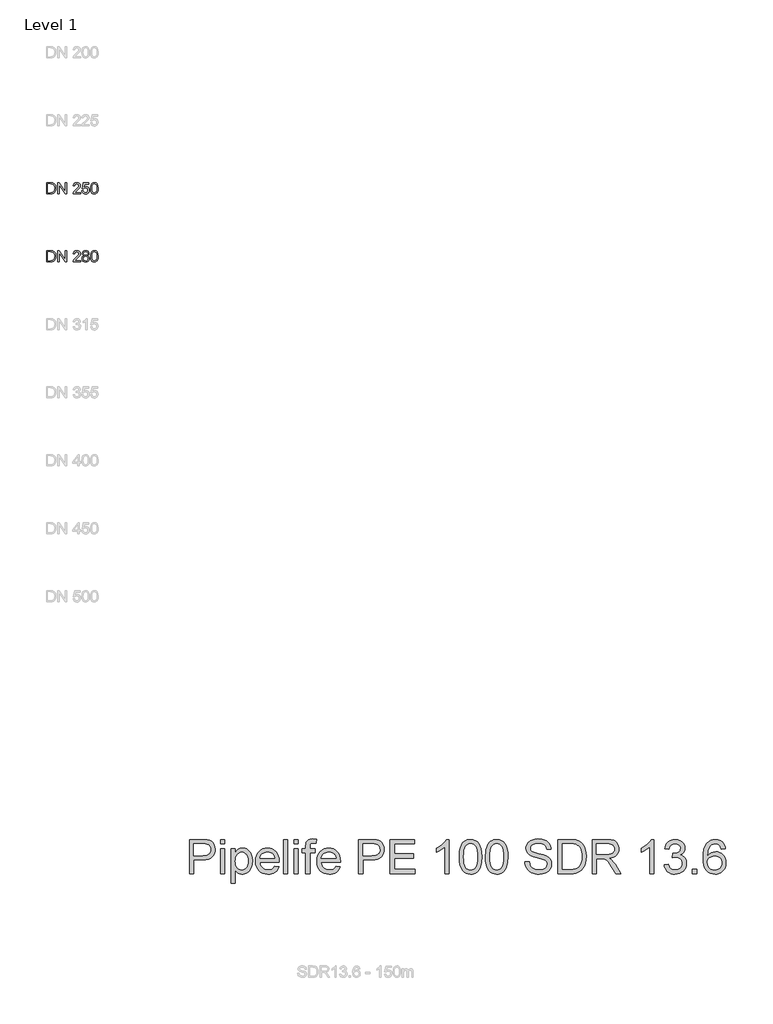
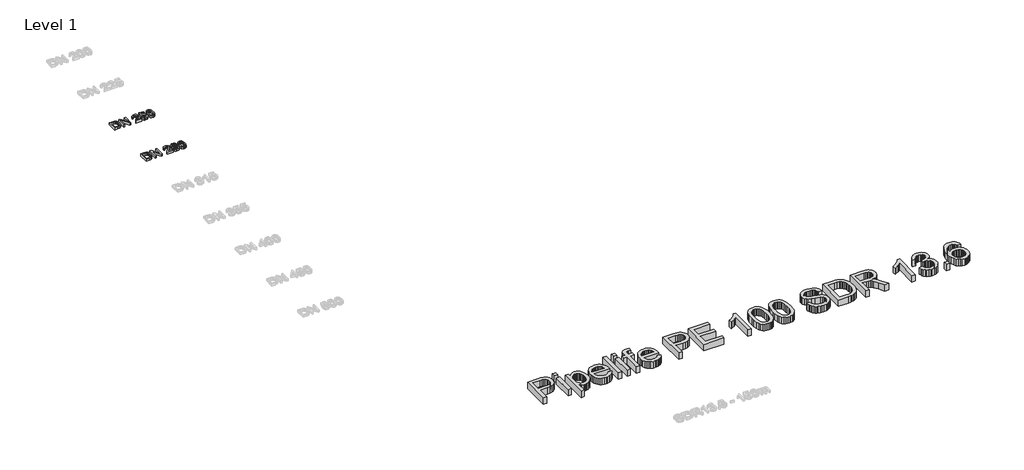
# One storey, part 17 of 26: 3 proxies.
"""IFC4 building model written with IfcOpenShell, lengths in millimetres."""

import ifcopenshell
import ifcopenshell.guid

model = None  # the IFC model being written
_history = None  # IfcOwnerHistory: only IFC2X3 demands one
_inside = {}  # id of a spatial element -> (the spatial element, [elements in it])
_under = {}  # id of a project, library or spatial element -> (it, [spatial elements below it])
_declared = {}  # id of a project -> (the project, [libraries it declares])
_typed = {}  # id of a type object -> (the type object, [elements of that type])
_made_of = {}  # id of a material, layer set ... -> (it, [elements and type objects made of it])


def new_model(schema):
    """Start an empty IFC model of exactly this schema.

    Asked for "IFC4X3", IfcOpenShell would pick the latest addendum, in which some entities
    have other attributes; the version numbers below select the first issue.
    IFC2X3 requires an IfcOwnerHistory on every rooted entity: one is made here for all.
    """
    global model, _history
    if schema == "IFC4X3":
        model = ifcopenshell.file(schema_version=(4, 3, 0, 0))
    else:
        model = ifcopenshell.file(schema=schema)
    _inside.clear()
    _under.clear()
    _declared.clear()
    _typed.clear()
    _made_of.clear()
    _history = None
    if model.schema == "IFC2X3":
        org = make("IfcOrganization", Name="unknown")
        user = make(
            "IfcPersonAndOrganization",
            ThePerson=make("IfcPerson", FamilyName="unknown"),
            TheOrganization=org,
        )
        app = make(
            "IfcApplication",
            ApplicationDeveloper=org,
            Version="unknown",
            ApplicationFullName="unknown",
            ApplicationIdentifier="unknown",
        )
        _history = make(
            "IfcOwnerHistory",
            OwningUser=user,
            OwningApplication=app,
            ChangeAction="ADDED",
            CreationDate=0,
        )
    return model


def make(cls, **values):
    """One entity of the class cls with the attributes given. An attribute that is None is left unset."""
    return model.create_entity(
        cls, **{name: value for name, value in values.items() if value is not None}
    )


def rooted(cls, **values):
    """An entity with a GlobalId (a new one), such as an element, a storey or a relation."""
    return make(cls, GlobalId=ifcopenshell.guid.new(), OwnerHistory=_history, **values)


def si_unit(unit_type, name, prefix=None):
    """IfcSIUnit, for example si_unit("LENGTHUNIT", "METRE", prefix="MILLI")."""
    return make("IfcSIUnit", UnitType=unit_type, Prefix=prefix, Name=name)


def assignment(units):
    """IfcUnitAssignment: the units of a project."""
    return None if units is None else make("IfcUnitAssignment", Units=units)


def point(xyz):
    """IfcCartesianPoint."""
    return None if xyz is None else make("IfcCartesianPoint", Coordinates=xyz)


def direction(xyz):
    """IfcDirection."""
    return None if xyz is None else make("IfcDirection", DirectionRatios=xyz)


def frame(location, z_axis=None, x_axis=None):
    """IfcAxis2Placement3D, a coordinate frame: its origin and axes. An axis left out is left unset."""
    return make(
        "IfcAxis2Placement3D",
        Location=point(location),
        Axis=direction(z_axis),
        RefDirection=direction(x_axis),
    )


def origin():
    """The frame at (0, 0, 0) with its axes left unset."""
    return frame((0.0, 0.0, 0.0))


def origin_with_axes():
    """The frame at (0, 0, 0) with the z axis (0, 0, 1) and the x axis (1, 0, 0) written out."""
    return frame((0.0, 0.0, 0.0), z_axis=(0.0, 0.0, 1.0), x_axis=(1.0, 0.0, 0.0))


def place(relative_to, where):
    """IfcLocalPlacement: puts the frame where relative to a parent placement (None: the world)."""
    return make(
        "IfcLocalPlacement", PlacementRelTo=relative_to, RelativePlacement=where
    )


def context(
    kind, dimensions, precision=None, world=None, true_north=None, identifier=None
):
    """IfcGeometricRepresentationContext, for example the 3D "Model" context."""
    return make(
        "IfcGeometricRepresentationContext",
        ContextIdentifier=identifier,
        ContextType=kind,
        CoordinateSpaceDimension=dimensions,
        Precision=precision,
        WorldCoordinateSystem=world,
        TrueNorth=true_north,
    )


def project(units=None, contexts=None):
    """IfcProject with its units and contexts."""
    return rooted(
        "IfcProject",
        Name="project",
        RepresentationContexts=contexts,
        UnitsInContext=assignment(units),
    )


def spatial(cls, under=None, at=None, **own):
    """A site, building, storey or space (cls), placed at a placement, below another one or the project."""
    s = rooted(cls, ObjectPlacement=at, **own)
    if under is not None:
        _under.setdefault(under.id(), (under, []))[1].append(s)
    return s


def polyline(points):
    """IfcPolyline through the points."""
    return make("IfcPolyline", Points=[point(p) for p in points])


def outline(outer, holes=None, kind="AREA"):
    """IfcArbitraryClosedProfileDef: a profile drawn as a closed curve; with holes, ...WithVoids."""
    if holes is None:
        return make("IfcArbitraryClosedProfileDef", ProfileType=kind, OuterCurve=outer)
    return make(
        "IfcArbitraryProfileDefWithVoids",
        ProfileType=kind,
        OuterCurve=outer,
        InnerCurves=holes,
    )


def extrude(swept, where, along, depth):
    """IfcExtrudedAreaSolid: the profile swept, set in the frame where, extruded along a direction by depth."""
    return make(
        "IfcExtrudedAreaSolid",
        SweptArea=swept,
        Position=where,
        ExtrudedDirection=direction(along),
        Depth=depth,
    )


def shape(context_of_items, identifier, shape_type, items):
    """IfcShapeRepresentation: the items that make up one representation, for example the "Body"."""
    return make(
        "IfcShapeRepresentation",
        ContextOfItems=context_of_items,
        RepresentationIdentifier=identifier,
        RepresentationType=shape_type,
        Items=items,
    )


def made_of(thing, what):
    """Note that an element or type object is made of a material, layer set ...; save() writes the relation."""
    if what is not None:
        _made_of.setdefault(what.id(), (what, []))[1].append(thing)
    return thing


def element(
    cls,
    number,
    at=None,
    inside=None,
    cuts=None,
    type_object=None,
    material=None,
    context=None,
    identifier="Body",
    shape_type=None,
    held_by="IfcProductDefinitionShape",
    body=None,
    shapes=None,
    **own,
):
    """One element of the class cls, such as IfcWall. Its Tag is "e" and its number.

    at: its placement. inside: the storey or other place that contains it. cuts: it is an
    opening in that element (IfcRelVoidsElement). A single representation is given by context,
    identifier, shape_type and body (its items); several are given by shapes. held_by: the class
    of the entity that holds the representations. save() writes the other relations.
    """
    e = rooted(cls, Tag="e%d" % number, ObjectPlacement=at, **own)
    if body is not None:
        shapes = [shape(context, identifier, shape_type, body)]
    if shapes is not None:
        e.Representation = make(held_by, Representations=shapes)
    if inside is not None:
        _inside.setdefault(inside.id(), (inside, []))[1].append(e)
    if cuts is not None:
        rooted(
            "IfcRelVoidsElement", RelatingBuildingElement=cuts, RelatedOpeningElement=e
        )
    if type_object is not None:
        _typed.setdefault(type_object.id(), (type_object, []))[1].append(e)
    return made_of(e, material)


def aggregate(whole, parts):
    """IfcRelAggregates: a whole, such as a stair, and the parts it consists of."""
    return rooted("IfcRelAggregates", RelatingObject=whole, RelatedObjects=parts)


def save(model, path):
    """Write the relations noted so far, then the file.

    IfcRelAggregates (storeys below a building ...), IfcRelContainedInSpatialStructure (elements
    in a storey), IfcRelDefinesByType, IfcRelAssociatesMaterial and IfcRelDeclares: one each for
    every whole, place, type object, material and project.
    """
    for whole, parts in _under.values():
        aggregate(whole, parts)
    for where, things in _inside.values():
        rooted(
            "IfcRelContainedInSpatialStructure",
            RelatedElements=things,
            RelatingStructure=where,
        )
    for kind, things in _typed.values():
        rooted("IfcRelDefinesByType", RelatedObjects=things, RelatingType=kind)
    for what, things in _made_of.values():
        rooted("IfcRelAssociatesMaterial", RelatedObjects=things, RelatingMaterial=what)
    for by, libraries in _declared.values():
        rooted("IfcRelDeclares", RelatingContext=by, RelatedDefinitions=libraries)
    model.write(path)


model = new_model("IFC4")

# Units and contexts
model_context = context("Model", 3, world=origin())
ifc_project = project(units=[si_unit("LENGTHUNIT", "METRE", prefix="MILLI")], contexts=[model_context])

# Site, building, storey
site = spatial("IfcSite", under=ifc_project)
building = spatial("IfcBuilding", under=site)
storey = spatial("IfcBuildingStorey", under=building, Name="Level 1", Elevation=0.0)

# Proxies
placement = place(None, origin())
element("IfcBuildingElementProxy", 1, Name="200mm Arial", ObjectType="200mm Arial", at=placement, inside=storey, context=model_context, shape_type="SweptSolid", body=[
    extrude(outline(polyline([(-19491.3116028, -13913.949573), (-19491.3116028, -13713.0369527), (-19422.0026349, -13713.0369527), (-19386.1464031, -13715.9309577), (-19370.1312736, -13721.5105013), (-19356.6177416, -13730.302881), (-19342.724065, -13745.606772), (-19332.8280393, -13764.6385338), (-19326.9051392, -13787.0302846), (-19324.9308391, -13812.4141423), (-19330.2773908, -13852.9547382), (-19344.0116519, -13882.2136195), (-19362.3567008, -13900.436041), (-19386.3671323, -13910.5160077), (-19418.6671715, -13913.949573), (-19491.3116028, -13913.949573)]), holes=[polyline([(-19466.1975253, -13888.8354954), (-19421.7573803, -13888.8354954), (-19389.4328156, -13885.2057264), (-19370.7934612, -13874.9540815), (-19362.0685265, -13864.0831685), (-19355.5140957, -13850.0116822), (-19351.4122114, -13832.6783089), (-19350.0449167, -13812.0217348), (-19352.7243239, -13784.6513144), (-19360.7625455, -13764.4423301), (-19372.6390025, -13750.5609162), (-19386.8331162, -13742.1732067), (-19422.4440933, -13738.1510302), (-19466.1975253, -13738.1510302), (-19466.1975253, -13888.8354954)])]), origin_with_axes(), (0.0, 0.0, 1.0), 50.0),
    extrude(outline(polyline([(-19290.3989825, -13913.949573), (-19290.3989825, -13713.0369527), (-19263.5190714, -13713.0369527), (-19158.5500754, -13872.2072292), (-19158.5500754, -13713.0369527), (-19133.4359979, -13713.0369527), (-19133.4359979, -13913.949573), (-19160.315909, -13913.949573), (-19265.284905, -13754.7302454), (-19265.284905, -13913.949573), (-19290.3989825, -13913.949573)])), origin_with_axes(), (0.0, 0.0, 1.0), 50.0),
    extrude(outline(polyline([(-18891.7130016, -13888.8354954), (-18891.7130016, -13913.949573), (-19023.5619087, -13913.949573), (-19020.8641074, -13896.6345937), (-19005.6092673, -13869.9754118), (-18974.1676195, -13840.8636832), (-18930.806595, -13799.0232377), (-18922.6764029, -13784.6022634), (-18919.9663388, -13770.5736967), (-18922.5231187, -13757.9982638), (-18930.1934583, -13747.5442838), (-18941.9840762, -13740.4993436), (-18956.9016912, -13738.1510302), (-18972.5673328, -13740.4441613), (-18984.7380955, -13747.3235546), (-18992.5923761, -13758.2496499), (-18995.3085714, -13772.6828868), (-19020.422649, -13769.5436271), (-19014.334202, -13745.2511527), (-19001.1701579, -13727.5069778), (-18981.6172299, -13716.6544589), (-18956.3621309, -13713.0369527), (-18930.9230909, -13717.0591291), (-18911.4069511, -13729.1256586), (-18898.9909337, -13747.1518763), (-18894.8522613, -13769.0531178), (-18899.3158962, -13792.8673456), (-18914.1538033, -13817.4909138), (-18950.1326624, -13851.9001431), (-18979.0236618, -13876.0577275), (-18990.3544272, -13888.8354954), (-18891.7130016, -13888.8354954)])), origin_with_axes(), (0.0, 0.0, 1.0), 50.0),
    extrude(outline(polyline([(-18866.5989241, -13860.5821582), (-18841.4848465, -13857.4428985), (-18836.8740589, -13872.5199289), (-18828.8297059, -13883.3172655), (-18817.3885758, -13889.8103827), (-18802.5874569, -13891.9747551), (-18784.5857646, -13888.9642541), (-18771.0967581, -13879.9327511), (-18762.6722604, -13865.9225785), (-18759.8640945, -13847.9760685), (-18762.4944508, -13831.0780222), (-18770.3855196, -13818.1531014), (-18783.5986146, -13809.9493329), (-18802.1950494, -13807.2147434), (-18824.2434437, -13811.5802764), (-18838.3455868, -13822.9110419), (-18863.4596644, -13819.7717822), (-18841.4848465, -13716.1762123), (-18744.1677961, -13716.1762123), (-18744.1677961, -13741.2902899), (-18821.1777604, -13741.2902899), (-18831.9199147, -13796.619742), (-18813.979536, -13785.7304349), (-18795.1807661, -13782.1006659), (-18771.7160261, -13786.601089), (-18752.2366745, -13800.1023582), (-18739.1216814, -13820.6792244), (-18734.750017, -13846.4064386), (-18738.6863543, -13871.5205162), (-18750.4953664, -13893.0048247), (-18760.9309523, -13903.5415782), (-18773.1078464, -13911.0678307), (-18787.0260485, -13915.5835821), (-18802.6855588, -13917.0888326), (-18827.3520466, -13913.2199403), (-18847.0030765, -13901.6132634), (-18860.4736888, -13883.6177025), (-18866.5989241, -13860.5821582)])), origin_with_axes(), (0.0, 0.0, 1.0), 50.0),
    extrude(outline(polyline([(-18712.7751992, -13815.1119436), (-18710.9296578, -13782.9529258), (-18705.3930338, -13757.3054194), (-18696.2205094, -13737.7770168), (-18683.4672669, -13723.9753106), (-18667.0413358, -13715.7715422), (-18646.8507456, -13713.0369527), (-18631.3751764, -13714.6556334), (-18617.5182879, -13719.5116758), (-18605.930005, -13727.4150073), (-18597.2602527, -13738.1755557), (-18585.4880288, -13767.9004209), (-18580.9262921, -13815.1119436), (-18582.7534393, -13847.0870203), (-18588.2348811, -13872.6732131), (-18597.3522232, -13892.2200098), (-18610.0870716, -13906.0768983), (-18626.5497909, -13914.335849), (-18646.8507456, -13917.0888326), (-18672.9458418, -13912.3063667), (-18692.7624186, -13897.9589689), (-18701.5180101, -13882.8298218), (-18707.772004, -13863.9789353), (-18712.7751992, -13815.1119436)]), holes=[polyline([(-18687.6611216, -13815.0628927), (-18684.7180657, -13854.5672876), (-18675.8888978, -13877.4311536), (-18662.7432478, -13888.3388547), (-18646.8507456, -13891.9747551), (-18630.9582434, -13888.326592), (-18617.8125935, -13877.3821026), (-18608.9834256, -13854.5059739), (-18606.0403696, -13815.0628927), (-18608.8853237, -13776.4475459), (-18617.420186, -13753.4058703), (-18630.5413105, -13741.9647402), (-18647.1450512, -13738.1510302), (-18662.8658751, -13741.5110191), (-18675.4964903, -13751.5909857), (-18684.6199638, -13776.0674012), (-18687.6611216, -13815.0628927)])]), origin_with_axes(), (0.0, 0.0, 1.0), 50.0),
])
element("IfcBuildingElementProxy", 2, Name="200mm Arial", ObjectType="200mm Arial", at=placement, inside=storey, context=model_context, shape_type="SweptSolid", body=[
    extrude(outline(polyline([(-19491.3116028, -15113.949573), (-19491.3116028, -14913.0369527), (-19422.0026349, -14913.0369527), (-19386.1464031, -14915.9309577), (-19370.1312736, -14921.5105013), (-19356.6177416, -14930.302881), (-19342.724065, -14945.606772), (-19332.8280393, -14964.6385338), (-19326.9051392, -14987.0302846), (-19324.9308391, -15012.4141423), (-19330.2773908, -15052.9547382), (-19344.0116519, -15082.2136195), (-19362.3567008, -15100.436041), (-19386.3671323, -15110.5160077), (-19418.6671715, -15113.949573), (-19491.3116028, -15113.949573)]), holes=[polyline([(-19466.1975253, -15088.8354954), (-19421.7573803, -15088.8354954), (-19389.4328156, -15085.2057264), (-19370.7934612, -15074.9540815), (-19362.0685265, -15064.0831685), (-19355.5140957, -15050.0116822), (-19351.4122114, -15032.6783089), (-19350.0449167, -15012.0217348), (-19352.7243239, -14984.6513144), (-19360.7625455, -14964.4423301), (-19372.6390025, -14950.5609162), (-19386.8331162, -14942.1732067), (-19422.4440933, -14938.1510302), (-19466.1975253, -14938.1510302), (-19466.1975253, -15088.8354954)])]), origin_with_axes(), (0.0, 0.0, 1.0), 50.0),
    extrude(outline(polyline([(-19290.3989825, -15113.949573), (-19290.3989825, -14913.0369527), (-19263.5190714, -14913.0369527), (-19158.5500754, -15072.2072292), (-19158.5500754, -14913.0369527), (-19133.4359979, -14913.0369527), (-19133.4359979, -15113.949573), (-19160.315909, -15113.949573), (-19265.284905, -14954.7302454), (-19265.284905, -15113.949573), (-19290.3989825, -15113.949573)])), origin_with_axes(), (0.0, 0.0, 1.0), 50.0),
    extrude(outline(polyline([(-18891.7130016, -15088.8354954), (-18891.7130016, -15113.949573), (-19023.5619087, -15113.949573), (-19020.8641074, -15096.6345937), (-19005.6092673, -15069.9754118), (-18974.1676195, -15040.8636832), (-18930.806595, -14999.0232377), (-18922.6764029, -14984.6022634), (-18919.9663388, -14970.5736967), (-18922.5231187, -14957.9982638), (-18930.1934583, -14947.5442838), (-18941.9840762, -14940.4993436), (-18956.9016912, -14938.1510302), (-18972.5673328, -14940.4441613), (-18984.7380955, -14947.3235546), (-18992.5923761, -14958.2496499), (-18995.3085714, -14972.6828868), (-19020.422649, -14969.5436271), (-19014.334202, -14945.2511527), (-19001.1701579, -14927.5069778), (-18981.6172299, -14916.6544589), (-18956.3621309, -14913.0369527), (-18930.9230909, -14917.0591291), (-18911.4069511, -14929.1256586), (-18898.9909337, -14947.1518763), (-18894.8522613, -14969.0531178), (-18899.3158962, -14992.8673456), (-18914.1538033, -15017.4909138), (-18950.1326624, -15051.9001431), (-18979.0236618, -15076.0577275), (-18990.3544272, -15088.8354954), (-18891.7130016, -15088.8354954)])), origin_with_axes(), (0.0, 0.0, 1.0), 50.0),
    extrude(outline(polyline([(-18830.0069283, -15003.2906688), (-18843.4530152, -14996.6687929), (-18852.8891884, -14987.6924722), (-18858.4626006, -14976.5456478), (-18860.3204047, -14963.4122605), (-18856.2737027, -14943.7796247), (-18844.1335969, -14927.5560287), (-18825.2612505, -14916.6667217), (-18801.0178271, -14913.0369527), (-18776.6272508, -14916.7525608), (-18757.5096498, -14927.8993853), (-18745.1488147, -14944.3804986), (-18741.0285364, -14964.0989736), (-18742.861815, -14976.8092965), (-18748.3616508, -14987.7660486), (-18757.5893575, -14996.687187), (-18770.6062488, -15003.2906688), (-18755.1490736, -15011.255314), (-18743.8980159, -15022.9846183), (-18737.0370167, -15037.9144959), (-18734.750017, -15055.4808612), (-18739.2872283, -15079.4912927), (-18752.8988621, -15099.332395), (-18773.9171868, -15112.6497232), (-18800.6744705, -15117.0888326), (-18827.4317543, -15112.6313291), (-18848.450079, -15099.2588186), (-18862.0617128, -15079.227644), (-18866.5989241, -15054.7941481), (-18864.2199538, -15036.5472012), (-18857.0830431, -15021.5376158), (-18845.5560739, -15010.2804267), (-18830.0069283, -15003.2906688)]), holes=[polyline([(-18841.4848465, -15053.9112313), (-18837.2909918, -15072.8203659), (-18831.4845876, -15080.9321639), (-18822.4530846, -15086.97156), (-18800.4782668, -15091.9747551), (-18783.3840168, -15089.3443988), (-18770.5571979, -15081.45333), (-18762.5373704, -15069.5032966), (-18759.8640945, -15054.6960463), (-18762.6232095, -15039.6374099), (-18770.9005544, -15027.4237277), (-18784.0216789, -15019.3303238), (-18801.3121327, -15016.6325225), (-18818.1672594, -15019.2935356), (-18830.8653196, -15027.2765749), (-18838.8299648, -15039.2572652), (-18841.4848465, -15053.9112313)]), polyline([(-18835.2063271, -14964.1480245), (-18832.9806411, -14975.110908), (-18826.3035829, -14983.8664995), (-18815.3713562, -14989.6054586), (-18800.3801649, -14991.518445), (-18785.7384615, -14989.6177213), (-18774.9717818, -14983.9155504), (-18768.3499059, -14975.4542645), (-18766.1426139, -14965.276196), (-18768.4234823, -14954.7118513), (-18775.2660874, -14945.974654), (-18786.1799199, -14940.1069361), (-18800.6744705, -14938.1510302), (-18815.2609916, -14940.0640166), (-18826.1564301, -14945.8029757), (-18832.9438529, -14954.2152106), (-18835.2063271, -14964.1480245)])]), origin_with_axes(), (0.0, 0.0, 1.0), 50.0),
    extrude(outline(polyline([(-18712.7751992, -15015.1119436), (-18710.9296578, -14982.9529258), (-18705.3930338, -14957.3054194), (-18696.2205094, -14937.7770168), (-18683.4672669, -14923.9753106), (-18667.0413358, -14915.7715422), (-18646.8507456, -14913.0369527), (-18631.3751764, -14914.6556334), (-18617.5182879, -14919.5116758), (-18605.930005, -14927.4150073), (-18597.2602527, -14938.1755557), (-18585.4880288, -14967.9004209), (-18580.9262921, -15015.1119436), (-18582.7534393, -15047.0870203), (-18588.2348811, -15072.6732131), (-18597.3522232, -15092.2200098), (-18610.0870716, -15106.0768983), (-18626.5497909, -15114.335849), (-18646.8507456, -15117.0888326), (-18672.9458418, -15112.3063667), (-18692.7624186, -15097.9589689), (-18701.5180101, -15082.8298218), (-18707.772004, -15063.9789353), (-18712.7751992, -15015.1119436)]), holes=[polyline([(-18687.6611216, -15015.0628927), (-18684.7180657, -15054.5672876), (-18675.8888978, -15077.4311536), (-18662.7432478, -15088.3388547), (-18646.8507456, -15091.9747551), (-18630.9582434, -15088.326592), (-18617.8125935, -15077.3821026), (-18608.9834256, -15054.5059739), (-18606.0403696, -15015.0628927), (-18608.8853237, -14976.4475459), (-18617.420186, -14953.4058703), (-18630.5413105, -14941.9647402), (-18647.1450512, -14938.1510302), (-18662.8658751, -14941.5110191), (-18675.4964903, -14951.5909857), (-18684.6199638, -14976.0674012), (-18687.6611216, -15015.0628927)])]), origin_with_axes(), (0.0, 0.0, 1.0), 50.0),
])
element("IfcBuildingElementProxy", 3, Name="600mm Arial", ObjectType="600mm Arial", at=placement, inside=storey, context=model_context, shape_type="SweptSolid", body=[
    extrude(outline(polyline([(-16966.7426717, -25909.5373902), (-16966.7426717, -25306.7995293), (-16743.3647242, -25306.7995293), (-16691.3462101, -25308.2342691), (-16653.3072118, -25312.5384884), (-16613.152892, -25323.2622486), (-16580.0986947, -25340.7182492), (-16553.4824324, -25365.6974367), (-16532.6419174, -25398.9907573), (-16519.1774363, -25438.2621602), (-16514.689276, -25481.175595), (-16517.7197039, -25518.1753266), (-16526.8109877, -25552.2136083), (-16541.9631274, -25583.2904398), (-16563.176123, -25611.4058213), (-16592.2985814, -25634.7111457), (-16631.1791098, -25651.357806), (-16679.8177081, -25661.3458021), (-16738.2143763, -25664.6751342), (-16891.4004391, -25664.6751342), (-16891.4004391, -25909.5373902), (-16966.7426717, -25909.5373902)]), holes=[polyline([(-16891.4004391, -25589.3329016), (-16733.7997923, -25589.3329016), (-16697.5634158, -25587.6038562), (-16666.992422, -25582.4167201), (-16642.0868109, -25573.7714932), (-16622.8465826, -25561.6681755), (-16608.4899877, -25546.4286639), (-16598.2352771, -25528.374855), (-16592.0824507, -25507.5067488), (-16590.0315086, -25483.8243453), (-16594.8691569, -25449.9792018), (-16609.3821016, -25421.431559), (-16631.767721, -25399.9472504), (-16660.2233933, -25387.2921098), (-16689.2860709, -25383.4293489), (-16735.5656259, -25382.1417619), (-16891.4004391, -25382.1417619), (-16891.4004391, -25589.3329016)])]), origin_with_axes(), (0.0, 0.0, 1.0), 150.0),
    extrude(outline(polyline([(-16420.5114852, -25909.5373902), (-16420.5114852, -25466.9017736), (-16345.1692526, -25466.9017736), (-16345.1692526, -25909.5373902), (-16420.5114852, -25909.5373902)])), origin_with_axes(), (0.0, 0.0, 1.0), 150.0),
    extrude(outline(polyline([(-16420.5114852, -25382.1417619), (-16420.5114852, -25306.7995293), (-16345.1692526, -25306.7995293), (-16345.1692526, -25382.1417619), (-16420.5114852, -25382.1417619)])), origin_with_axes(), (0.0, 0.0, 1.0), 150.0),
    extrude(outline(polyline([(-16232.1559037, -26079.0574135), (-16232.1559037, -25466.9017736), (-16156.8136711, -25466.9017736), (-16156.8136711, -25540.7724782), (-16132.2391538, -25504.3337666), (-16104.7215806, -25478.3061154), (-16072.6422706, -25462.6895247), (-16034.3825431, -25457.4839945), (-16008.1065716, -25459.3050104), (-15983.4308868, -25464.768058), (-15960.3554886, -25473.8731374), (-15938.8803772, -25486.6202485), (-15919.4746019, -25502.6782976), (-15902.6072124, -25521.7161909), (-15888.2782087, -25543.7339283), (-15876.4875908, -25568.7315098), (-15860.7054532, -25624.2449029), (-15855.4447407, -25684.8350675), (-15861.3860349, -25749.269599), (-15868.8126527, -25778.9346834), (-15879.2099175, -25806.8983135), (-15892.4352753, -25832.429324), (-15908.3461716, -25854.7965493), (-15926.9426064, -25873.9999894), (-15948.2245798, -25890.0396444), (-15971.1482267, -25902.6901865), (-15994.6696817, -25911.726288), (-16018.788945, -25917.1479489), (-16043.5060166, -25918.9551692), (-16078.1421064, -25914.117521), (-16109.0625881, -25899.6045763), (-16135.5316977, -25877.6972035), (-16156.8136711, -25850.6762709), (-16156.8136711, -26079.0574135), (-16232.1559037, -26079.0574135)]), holes=[polyline([(-16156.8136711, -25691.751249), (-16154.7765246, -25728.0612019), (-16148.6650849, -25759.2943833), (-16138.4793522, -25785.4507932), (-16124.2193263, -25806.5304315), (-16107.0530327, -25822.7540275), (-16088.1484967, -25834.3423104), (-16067.5057182, -25841.2952801), (-16045.1246974, -25843.6129366), (-16022.4217797, -25841.2125066), (-16001.4019222, -25834.0112166), (-15982.0651249, -25822.0090665), (-15964.4113876, -25805.2060563), (-15949.7007063, -25783.3630629), (-15939.1930769, -25756.2409628), (-15932.8884992, -25723.8397561), (-15930.7869733, -25686.1594427), (-15932.8379154, -25650.1621895), (-15938.9907418, -25618.9841904), (-15949.2454524, -25592.6254454), (-15963.6020472, -25571.0859546), (-15980.8097276, -25554.3473238), (-15999.6176946, -25542.391159), (-16020.0259482, -25535.2174601), (-16042.0344886, -25532.8262271), (-16063.9740511, -25535.3692114), (-16084.6168295, -25542.9981643), (-16103.962824, -25555.7130857), (-16122.0120344, -25573.5139758), (-16137.2377504, -25596.1617111), (-16148.1132619, -25623.4171684), (-16154.6385688, -25655.2803477), (-16156.8136711, -25691.751249)])]), origin_with_axes(), (0.0, 0.0, 1.0), 150.0),
    extrude(outline(polyline([(-15460.7809362, -25777.6884831), (-15386.9102316, -25787.1062622), (-15398.2363985, -25816.6931716), (-15413.5264939, -25842.766808), (-15432.7805179, -25865.3271714), (-15455.9984703, -25884.3742617), (-15482.9412279, -25899.5034087), (-15513.3696674, -25910.3099424), (-15547.2837889, -25916.7938625), (-15584.6835922, -25918.9551692), (-15631.4321967, -25915.2257655), (-15673.0856356, -25904.0375543), (-15709.6439089, -25885.3905357), (-15741.1070165, -25859.2847096), (-15766.4081008, -25826.446643), (-15784.4803038, -25787.6029029), (-15795.3236256, -25742.7534891), (-15798.9380662, -25691.8984018), (-15795.2868374, -25639.3188677), (-15784.333151, -25592.9749333), (-15766.077007, -25552.8665988), (-15740.5184054, -25518.9938641), (-15709.1380712, -25492.0832961), (-15673.4167294, -25472.8614619), (-15633.3543802, -25461.3283613), (-15588.9510233, -25457.4839945), (-15545.9778078, -25461.3191643), (-15507.1156735, -25472.8246737), (-15472.3646205, -25492.0005227), (-15441.7246489, -25518.8467113), (-15416.7132717, -25552.6458696), (-15398.8480023, -25592.6806277), (-15388.1288407, -25638.9509857), (-15384.5557868, -25691.4569434), (-15384.9972452, -25711.7640296), (-15723.5958336, -25711.7640296), (-15719.2318334, -25741.8291856), (-15710.5544168, -25768.1603394), (-15697.5635839, -25790.757491), (-15680.2593345, -25809.6206403), (-15659.598162, -25824.4922699), (-15636.5365594, -25835.1148625), (-15611.0745268, -25841.4884181), (-15583.2120642, -25843.6129366), (-15543.1129267, -25839.6765993), (-15509.3413596, -25827.8675872), (-15481.8973627, -25807.4501365), (-15460.7809362, -25777.6884831)]), holes=[polyline([(-15723.5958336, -25636.4217969), (-15459.8980194, -25636.4217969), (-15470.0883507, -25596.6169651), (-15478.8531392, -25580.9635862), (-15490.064343, -25568.1428986), (-15510.6105525, -25552.6918548), (-15533.9894533, -25541.655395), (-15560.2010454, -25535.0335191), (-15589.2453289, -25532.8262271), (-15615.7374311, -25534.5874622), (-15640.0314384, -25539.8711673), (-15662.1273507, -25548.6773426), (-15682.0251681, -25561.0059879), (-15698.7224122, -25576.2868863), (-15711.2166044, -25593.9498206), (-15719.5077449, -25613.9947908), (-15723.5958336, -25636.4217969)])]), origin_with_axes(), (0.0, 0.0, 1.0), 150.0),
    extrude(outline(polyline([(-15309.2135542, -25909.5373902), (-15309.2135542, -25306.7995293), (-15233.8713216, -25306.7995293), (-15233.8713216, -25909.5373902), (-15309.2135542, -25909.5373902)])), origin_with_axes(), (0.0, 0.0, 1.0), 150.0),
    extrude(outline(polyline([(-15120.8579727, -25382.1417619), (-15120.8579727, -25306.7995293), (-15045.5157401, -25306.7995293), (-15045.5157401, -25382.1417619), (-15120.8579727, -25382.1417619)])), origin_with_axes(), (0.0, 0.0, 1.0), 150.0),
    extrude(outline(polyline([(-15120.8579727, -25909.5373902), (-15120.8579727, -25466.9017736), (-15045.5157401, -25466.9017736), (-15045.5157401, -25909.5373902), (-15120.8579727, -25909.5373902)])), origin_with_axes(), (0.0, 0.0, 1.0), 150.0),
    extrude(outline(polyline([(-14913.666833, -25909.5373902), (-14913.666833, -25542.2440062), (-14979.5912865, -25542.2440062), (-14979.5912865, -25466.9017736), (-14913.666833, -25466.9017736), (-14913.666833, -25422.3144758), (-14911.6802702, -25385.4159116), (-14905.7205819, -25359.480231), (-14890.5638437, -25334.4274671), (-14867.1665488, -25314.5986276), (-14834.4250512, -25301.6859695), (-14791.235705, -25297.3817502), (-14758.5309956, -25299.4418894), (-14722.5153483, -25305.6223069), (-14733.5518082, -25376.25565), (-14776.9618836, -25372.7239828), (-14805.6014969, -25375.8509798), (-14824.418661, -25385.2319706), (-14834.8481155, -25403.1478238), (-14838.3246004, -25431.8794076), (-14838.3246004, -25466.9017736), (-14753.5645887, -25466.9017736), (-14753.5645887, -25542.2440062), (-14838.3246004, -25542.2440062), (-14838.3246004, -25909.5373902), (-14913.666833, -25909.5373902)])), origin_with_axes(), (0.0, 0.0, 1.0), 150.0),
    extrude(outline(polyline([(-14377.7363424, -25777.6884831), (-14303.8656378, -25787.1062622), (-14315.1918047, -25816.6931716), (-14330.4819001, -25842.766808), (-14349.7359241, -25865.3271714), (-14372.9538765, -25884.3742617), (-14399.8966341, -25899.5034087), (-14430.3250736, -25910.3099424), (-14464.2391951, -25916.7938625), (-14501.6389984, -25918.9551692), (-14548.3876029, -25915.2257655), (-14590.0410418, -25904.0375543), (-14626.5993151, -25885.3905357), (-14658.0624227, -25859.2847096), (-14683.363507, -25826.446643), (-14701.43571, -25787.6029029), (-14712.2790318, -25742.7534891), (-14715.8934724, -25691.8984018), (-14712.2422436, -25639.3188677), (-14701.2885572, -25592.9749333), (-14683.0324132, -25552.8665988), (-14657.4738116, -25518.9938641), (-14626.0934774, -25492.0832961), (-14590.3721356, -25472.8614619), (-14550.3097864, -25461.3283613), (-14505.9064295, -25457.4839945), (-14462.933214, -25461.3191643), (-14424.0710797, -25472.8246737), (-14389.3200267, -25492.0005227), (-14358.6800551, -25518.8467113), (-14333.6686779, -25552.6458696), (-14315.8034085, -25592.6806277), (-14305.0842469, -25638.9509857), (-14301.511193, -25691.4569434), (-14301.9526514, -25711.7640296), (-14640.5512398, -25711.7640296), (-14636.1872396, -25741.8291856), (-14627.509823, -25768.1603394), (-14614.5189901, -25790.757491), (-14597.2147407, -25809.6206403), (-14576.5535682, -25824.4922699), (-14553.4919656, -25835.1148625), (-14528.029933, -25841.4884181), (-14500.1674704, -25843.6129366), (-14460.0683329, -25839.6765993), (-14426.2967658, -25827.8675872), (-14398.8527689, -25807.4501365), (-14377.7363424, -25777.6884831)]), holes=[polyline([(-14640.5512398, -25636.4217969), (-14376.8534256, -25636.4217969), (-14387.0437569, -25596.6169651), (-14395.8085454, -25580.9635862), (-14407.0197492, -25568.1428986), (-14427.5659587, -25552.6918548), (-14450.9448595, -25541.655395), (-14477.1564516, -25535.0335191), (-14506.2007351, -25532.8262271), (-14532.6928373, -25534.5874622), (-14556.9868446, -25539.8711673), (-14579.0827569, -25548.6773426), (-14598.9805743, -25561.0059879), (-14615.6778184, -25576.2868863), (-14628.1720106, -25593.9498206), (-14636.4631511, -25613.9947908), (-14640.5512398, -25636.4217969)])]), origin_with_axes(), (0.0, 0.0, 1.0), 150.0),
    extrude(outline(polyline([(-13981.3067044, -25909.5373902), (-13981.3067044, -25306.7995293), (-13757.928757, -25306.7995293), (-13705.9102428, -25308.2342691), (-13667.8712445, -25312.5384884), (-13627.7169248, -25323.2622486), (-13594.6627275, -25340.7182492), (-13568.0464651, -25365.6974367), (-13547.2059501, -25398.9907573), (-13533.7414691, -25438.2621602), (-13529.2533087, -25481.175595), (-13532.2837367, -25518.1753266), (-13541.3750205, -25552.2136083), (-13556.5271602, -25583.2904398), (-13577.7401557, -25611.4058213), (-13606.8626142, -25634.7111457), (-13645.7431425, -25651.357806), (-13694.3817408, -25661.3458021), (-13752.778409, -25664.6751342), (-13905.9644718, -25664.6751342), (-13905.9644718, -25909.5373902), (-13981.3067044, -25909.5373902)]), holes=[polyline([(-13905.9644718, -25589.3329016), (-13748.3638251, -25589.3329016), (-13712.1274486, -25587.6038562), (-13681.5564548, -25582.4167201), (-13656.6508437, -25573.7714932), (-13637.4106153, -25561.6681755), (-13623.0540205, -25546.4286639), (-13612.7993099, -25528.374855), (-13606.6464835, -25507.5067488), (-13604.5955414, -25483.8243453), (-13609.4331896, -25449.9792018), (-13623.9461343, -25421.431559), (-13646.3317537, -25399.9472504), (-13674.787426, -25387.2921098), (-13703.8501037, -25383.4293489), (-13750.1296587, -25382.1417619), (-13905.9644718, -25382.1417619), (-13905.9644718, -25589.3329016)])]), origin_with_axes(), (0.0, 0.0, 1.0), 150.0),
    extrude(outline(polyline([(-13425.6577389, -25909.5373902), (-13425.6577389, -25306.7995293), (-12992.4399014, -25306.7995293), (-12992.4399014, -25382.1417619), (-13350.3155063, -25382.1417619), (-13350.3155063, -25561.0795643), (-13011.2754595, -25561.0795643), (-13011.2754595, -25636.4217969), (-13350.3155063, -25636.4217969), (-13350.3155063, -25834.1951576), (-12983.0221223, -25834.1951576), (-12983.0221223, -25909.5373902), (-13425.6577389, -25909.5373902)])), origin_with_axes(), (0.0, 0.0, 1.0), 150.0),
    extrude(outline(polyline([(-12380.2842614, -25909.5373902), (-12455.626494, -25909.5373902), (-12455.626494, -25439.8256587), (-12487.0804046, -25465.2646987), (-12526.9956011, -25490.6669505), (-12568.8973603, -25512.8686289), (-12606.3109592, -25528.7059488), (-12606.3109592, -25457.4839945), (-12547.1371403, -25425.2943199), (-12495.8727843, -25386.9978042), (-12455.4609471, -25346.2732674), (-12428.8446848, -25306.7995293), (-12380.2842614, -25306.7995293), (-12380.2842614, -25909.5373902)])), origin_with_axes(), (0.0, 0.0, 1.0), 150.0),
    extrude(outline(polyline([(-12201.346459, -25613.0245021), (-12195.8098349, -25516.5474488), (-12188.8890549, -25475.6343724), (-12179.1999628, -25439.6049295), (-12166.7839455, -25408.1648145), (-12151.6823896, -25381.0197218), (-12133.8952951, -25358.1696514), (-12113.4226621, -25339.6146032), (-12090.1955126, -25325.2580084), (-12064.1448689, -25315.0032978), (-12035.2707308, -25308.8504714), (-12003.5730984, -25306.7995293), (-11957.1463906, -25311.6555716), (-11915.5757251, -25326.2236986), (-11880.8108766, -25349.9336932), (-11854.8016195, -25382.2153383), (-11835.156721, -25422.7927223), (-11819.484948, -25471.3899339), (-11809.2210403, -25533.1021386), (-11805.7997377, -25613.0245021), (-11811.2811795, -25708.9497323), (-11818.1329816, -25749.7248529), (-11827.7255047, -25785.7083106), (-11840.044953, -25817.1622212), (-11855.077531, -25844.3487006), (-11872.8232387, -25867.2677489), (-11893.2820762, -25885.9193661), (-11916.5368168, -25900.37253), (-11942.670234, -25910.6962185), (-11971.6823279, -25916.8904315), (-12003.5730984, -25918.9551692), (-12045.0701874, -25915.3683198), (-12081.8583869, -25904.6077714), (-12113.9376969, -25886.6735242), (-12141.3081173, -25861.565578), (-12167.5748918, -25816.1781368), (-12186.3368736, -25759.6254771), (-12197.5940626, -25691.9075989), (-12201.346459, -25613.0245021)]), holes=[polyline([(-12126.0042263, -25612.8773493), (-12123.7969344, -25678.37414), (-12117.1750585, -25731.390534), (-12106.1385986, -25771.9265313), (-12090.6875548, -25799.982132), (-12071.9991495, -25819.070609), (-12051.2506049, -25832.7052355), (-12028.4419212, -25840.8860113), (-12003.5730984, -25843.6129366), (-11978.7042755, -25840.8768143), (-11955.8955918, -25832.6684473), (-11935.1470472, -25818.9878356), (-11916.4586419, -25799.8349792), (-11901.0075981, -25771.7333933), (-11889.9711382, -25731.206593), (-11883.3492623, -25678.2545783), (-11881.1419704, -25612.8773493), (-11883.2756859, -25549.1142024), (-11889.6768326, -25497.031309), (-11900.3454105, -25456.6286689), (-11915.2814195, -25427.9062821), (-11933.6571252, -25407.8843045), (-11954.644793, -25393.5828919), (-11978.244423, -25385.0020444), (-12004.4560151, -25382.1417619), (-12029.1960793, -25384.6617535), (-12051.6184869, -25392.2217286), (-12071.723238, -25404.8216869), (-12089.5103324, -25422.4616286), (-12105.476411, -25453.7315981), (-12116.8807529, -25495.8908748), (-12123.723358, -25548.9394585), (-12126.0042263, -25612.8773493)])]), origin_with_axes(), (0.0, 0.0, 1.0), 150.0),
    extrude(outline(polyline([(-11739.8752842, -25613.0245021), (-11734.3386602, -25516.5474488), (-11727.4178801, -25475.6343724), (-11717.7287881, -25439.6049295), (-11705.3127708, -25408.1648145), (-11690.2112149, -25381.0197218), (-11672.4241204, -25358.1696514), (-11651.9514874, -25339.6146032), (-11628.7243379, -25325.2580084), (-11602.6736941, -25315.0032978), (-11573.799556, -25308.8504714), (-11542.1019236, -25306.7995293), (-11495.6752158, -25311.6555716), (-11454.1045504, -25326.2236986), (-11419.3397018, -25349.9336932), (-11393.3304448, -25382.2153383), (-11373.6855462, -25422.7927223), (-11358.0137732, -25471.3899339), (-11347.7498655, -25533.1021386), (-11344.328563, -25613.0245021), (-11349.8100047, -25708.9497323), (-11356.6618069, -25749.7248529), (-11366.2543299, -25785.7083106), (-11378.5737782, -25817.1622212), (-11393.6063562, -25844.3487006), (-11411.352064, -25867.2677489), (-11431.8109014, -25885.9193661), (-11455.0656421, -25900.37253), (-11481.1990593, -25910.6962185), (-11510.2111531, -25916.8904315), (-11542.1019236, -25918.9551692), (-11583.5990127, -25915.3683198), (-11620.3872122, -25904.6077714), (-11652.4665222, -25886.6735242), (-11679.8369426, -25861.565578), (-11706.1037171, -25816.1781368), (-11724.8656988, -25759.6254771), (-11736.1228879, -25691.9075989), (-11739.8752842, -25613.0245021)]), holes=[polyline([(-11664.5330516, -25612.8773493), (-11662.3257596, -25678.37414), (-11655.7038837, -25731.390534), (-11644.6674239, -25771.9265313), (-11629.2163801, -25799.982132), (-11610.5279747, -25819.070609), (-11589.7794302, -25832.7052355), (-11566.9707465, -25840.8860113), (-11542.1019236, -25843.6129366), (-11517.2331007, -25840.8768143), (-11494.424417, -25832.6684473), (-11473.6758725, -25818.9878356), (-11454.9874671, -25799.8349792), (-11439.5364233, -25771.7333933), (-11428.4999635, -25731.206593), (-11421.8780876, -25678.2545783), (-11419.6707956, -25612.8773493), (-11421.8045112, -25549.1142024), (-11428.2056579, -25497.031309), (-11438.8742358, -25456.6286689), (-11453.8102448, -25427.9062821), (-11472.1859504, -25407.8843045), (-11493.1736182, -25393.5828919), (-11516.7732482, -25385.0020444), (-11542.9848404, -25382.1417619), (-11567.7249046, -25384.6617535), (-11590.1473122, -25392.2217286), (-11610.2520632, -25404.8216869), (-11628.0391577, -25422.4616286), (-11644.0052363, -25453.7315981), (-11655.4095781, -25495.8908748), (-11662.2521832, -25548.9394585), (-11664.5330516, -25612.8773493)])]), origin_with_axes(), (0.0, 0.0, 1.0), 150.0),
    extrude(outline(polyline([(-11042.9596325, -25702.3462505), (-10967.6173999, -25702.3462505), (-10958.972173, -25744.1560392), (-10943.3371883, -25777.7620595), (-10918.946612, -25804.4335041), (-10884.0346106, -25825.4395661), (-10841.3602992, -25839.069594), (-10793.6827926, -25843.6129366), (-10751.707457, -25840.17324), (-10714.9560456, -25829.85415), (-10685.1759981, -25813.5201894), (-10664.1147539, -25792.0358809), (-10651.588372, -25767.3693931), (-10647.4129113, -25741.4888948), (-10650.5399083, -25716.270584), (-10659.9208992, -25694.4735758), (-10678.9771865, -25675.8771409), (-10711.1300729, -25660.2605502), (-10820.8324839, -25631.4921782), (-10892.8453844, -25612.454285), (-10938.9226043, -25594.3360967), (-10976.4281737, -25568.9890272), (-11003.0076479, -25538.2708806), (-11018.8449678, -25502.8438445), (-11024.1240744, -25463.3701064), (-11022.491598, -25440.9339032), (-11017.594169, -25419.2426611), (-11009.4317872, -25398.29638), (-10998.0044527, -25378.0950599), (-10983.4409243, -25359.4618369), (-10965.8699605, -25343.2198468), (-10945.2915614, -25329.3690897), (-10921.7057269, -25317.9095655), (-10868.6939314, -25302.513704), (-10810.0167532, -25297.3817502), (-10746.4467444, -25302.7528273), (-10690.8229868, -25318.8660587), (-10666.4875928, -25330.8682088), (-10645.132043, -25345.3903506), (-10626.7563373, -25362.432484), (-10611.3604758, -25381.9946091), (-10599.0640201, -25403.5065088), (-10589.9865319, -25426.3979659), (-10584.1280111, -25450.6689805), (-10581.4884578, -25476.3195526), (-10656.8306904, -25476.3195526), (-10661.8706737, -25452.2784643), (-10670.6630534, -25431.3643728), (-10683.2078295, -25413.5772784), (-10699.5050018, -25398.9171809), (-10719.8580732, -25387.4576567), (-10744.5705463, -25379.2722823), (-10773.6424209, -25374.3610577), (-10807.0736972, -25372.7239828), (-10841.5718313, -25374.3426636), (-10871.0483762, -25379.1987059), (-10895.5033318, -25387.2921098), (-10914.9366982, -25398.6228753), (-10929.7439485, -25412.2437061), (-10940.3205559, -25427.2073063), (-10946.6665203, -25443.5136757), (-10948.7818418, -25461.1628144), (-10947.2827226, -25476.3471438), (-10942.7853653, -25490.1151275), (-10935.2897696, -25502.4667655), (-10924.7959357, -25513.4020578), (-10908.2780341, -25523.7579359), (-10882.2687771, -25534.2241787), (-10801.7761965, -25555.487758), (-10718.708442, -25575.6844795), (-10668.4557615, -25593.3060271), (-10625.5055385, -25620.6396594), (-10608.900265, -25636.7069055), (-10595.54155, -25654.3744383), (-10585.2730438, -25673.5502873), (-10577.9383965, -25694.142482), (-10572.0706787, -25739.5759084), (-10573.7583374, -25763.1433487), (-10578.8213133, -25786.0210103), (-10587.2596066, -25808.2088931), (-10599.0732172, -25829.7069972), (-10614.0552114, -25849.6829896), (-10631.9986557, -25867.3045371), (-10652.9035501, -25882.5716399), (-10676.7698945, -25895.484298), (-10702.9033118, -25905.7528041), (-10730.6094245, -25913.0874514), (-10790.7397367, -25918.9551692), (-10829.2799742, -25917.3732767), (-10864.555259, -25912.6275989), (-10896.5655911, -25904.718136), (-10925.3109705, -25893.644888), (-10950.9661411, -25879.3894607), (-10973.705847, -25861.93346), (-10993.530088, -25841.276886), (-11010.4388642, -25817.4197386), (-11024.059695, -25791.13457), (-11034.0201001, -25763.1939325), (-11040.3200792, -25733.597826), (-11042.9596325, -25702.3462505)])), origin_with_axes(), (0.0, 0.0, 1.0), 150.0),
    extrude(outline(polyline([(-10459.0573298, -25909.5373902), (-10459.0573298, -25306.7995293), (-10251.1304261, -25306.7995293), (-10188.9951571, -25308.970033), (-10143.5617307, -25315.4815444), (-10095.5163422, -25332.2201751), (-10054.9757463, -25358.5973142), (-10032.6361121, -25380.1551991), (-10013.2947162, -25404.5089872), (-9996.9515586, -25431.6586784), (-9983.6066392, -25461.6042728), (-9973.241564, -25494.0698589), (-9965.8379389, -25528.7795252), (-9959.9150387, -25604.9310982), (-9963.9249525, -25669.623147), (-9975.9546937, -25726.5528858), (-9994.2752171, -25775.0213386), (-10017.1574772, -25814.3295298), (-10043.497828, -25845.3603761), (-10072.1926237, -25868.9967943), (-10105.1364563, -25886.5263714), (-10144.2239183, -25899.2366943), (-10189.528586, -25906.9622162), (-10241.1240359, -25909.5373902), (-10459.0573298, -25909.5373902)]), holes=[polyline([(-10383.7150972, -25834.1951576), (-10250.3946621, -25834.1951576), (-10195.2491511, -25831.4728308), (-10153.4209682, -25823.3058505), (-10121.856693, -25810.1724633), (-10097.5029049, -25792.5509157), (-10071.328101, -25759.9381768), (-10051.6648083, -25717.7237179), (-10039.3591556, -25665.7235979), (-10035.2572714, -25603.7538758), (-10037.2668268, -25560.0127066), (-10043.295493, -25521.6426145), (-10053.3432699, -25488.6435995), (-10067.4101577, -25461.0156616), (-10084.3557221, -25438.1334015), (-10103.039529, -25419.3714198), (-10123.4615782, -25404.7297164), (-10145.6218699, -25394.2082913), (-10188.9583689, -25385.1583942), (-10252.4548013, -25382.1417619), (-10383.7150972, -25382.1417619), (-10383.7150972, -25834.1951576)])]), origin_with_axes(), (0.0, 0.0, 1.0), 150.0),
    extrude(outline(polyline([(-9856.3194689, -25909.5373902), (-9856.3194689, -25306.7995293), (-9596.5947803, -25306.7995293), (-9526.7891717, -25310.8646253), (-9476.0030623, -25323.0599135), (-9456.404149, -25332.753604), (-9438.883769, -25345.5742916), (-9423.4419222, -25361.5219761), (-9410.0786088, -25380.5966575), (-9399.2950678, -25401.7728649), (-9391.5925385, -25424.025127), (-9386.9710209, -25447.3534441), (-9385.4305151, -25471.7578159), (-9387.9826964, -25502.7150858), (-9395.6392404, -25531.1339699), (-9408.4001472, -25557.0144683), (-9426.2654165, -25580.3565809), (-9449.4649749, -25600.4153467), (-9478.2287484, -25616.4458046), (-9512.556737, -25628.4479547), (-9552.4489409, -25636.4217969), (-9527.6169062, -25652.6453929), (-9509.6274766, -25668.6482597), (-9478.7621773, -25705.2525182), (-9448.5590654, -25746.1977843), (-9348.0537044, -25909.5373902), (-9435.6096192, -25909.5373902), (-9514.0420606, -25784.6046646), (-9570.6958878, -25701.9047921), (-9591.7571321, -25677.7901273), (-9610.5007197, -25662.8357242), (-9646.3324261, -25648.4883264), (-9690.0368071, -25645.839576), (-9780.9772363, -25645.839576), (-9780.9772363, -25909.5373902), (-9856.3194689, -25909.5373902)]), holes=[polyline([(-9780.9772363, -25570.4973434), (-9612.3401297, -25570.4973434), (-9563.908465, -25567.8301989), (-9526.3293192, -25559.8287656), (-9498.0391938, -25545.9596143), (-9477.4745903, -25525.6893164), (-9464.9482083, -25501.1699814), (-9460.7727477, -25474.5537191), (-9462.763909, -25455.2858996), (-9468.7373929, -25437.8023078), (-9478.6931994, -25422.1029436), (-9492.6313285, -25408.1878071), (-9510.8736769, -25396.7926623), (-9533.7421414, -25388.6532732), (-9561.236722, -25383.7696397), (-9593.3574188, -25382.1417619), (-9780.9772363, -25382.1417619), (-9780.9772363, -25570.4973434)])]), origin_with_axes(), (0.0, 0.0, 1.0), 150.0),
    extrude(outline(polyline([(-8763.857096, -25909.5373902), (-8839.1993286, -25909.5373902), (-8839.1993286, -25439.8256587), (-8870.6532392, -25465.2646987), (-8910.5684357, -25490.6669505), (-8952.470195, -25512.8686289), (-8989.8837939, -25528.7059488), (-8989.8837939, -25457.4839945), (-8930.7099749, -25425.2943199), (-8879.4456189, -25386.9978042), (-8839.0337817, -25346.2732674), (-8812.4175194, -25306.7995293), (-8763.857096, -25306.7995293), (-8763.857096, -25909.5373902)])), origin_with_axes(), (0.0, 0.0, 1.0), 150.0),
    extrude(outline(polyline([(-8584.9192936, -25749.4351459), (-8509.577061, -25740.0173668), (-8492.7096715, -25787.3637796), (-8481.3375193, -25805.2704357), (-8468.0063955, -25819.332725), (-8452.4127974, -25829.9553176), (-8434.2532224, -25837.5428837), (-8413.5276705, -25842.0954234), (-8390.2361417, -25843.6129366), (-8362.9392977, -25841.5252063), (-8338.5855096, -25835.2620153), (-8317.1747775, -25824.8233637), (-8298.7071013, -25810.2092515), (-8283.8354717, -25792.5141275), (-8273.2128791, -25772.8324408), (-8266.8393235, -25751.1641912), (-8264.714805, -25727.509379), (-8266.8209294, -25704.9812053), (-8273.1393027, -25684.4855796), (-8283.6699248, -25666.022502), (-8298.4127957, -25649.5919724), (-8316.4022253, -25636.1044987), (-8336.6725232, -25626.470589), (-8359.2236895, -25620.6902431), (-8384.0557242, -25618.7634612), (-8407.8576893, -25620.8236004), (-8436.8835787, -25627.0040179), (-8428.4958692, -25551.6617853), (-8416.4293398, -25552.544702), (-8371.290219, -25547.1368367), (-8330.9335641, -25530.9132407), (-8314.323692, -25518.6443762), (-8302.4594977, -25503.4692439), (-8295.3409811, -25485.3878438), (-8292.9681422, -25464.400176), (-8294.6879905, -25447.3626411), (-8299.8475355, -25431.8610135), (-8308.4467771, -25417.8952933), (-8320.4857154, -25405.4654804), (-8335.2377834, -25395.2613535), (-8351.9764142, -25387.9726915), (-8391.4133641, -25382.1417619), (-8412.0699381, -25383.6132899), (-8430.9238904, -25388.0278738), (-8447.9752209, -25395.3855137), (-8463.2239296, -25405.6862096), (-8476.2929374, -25418.9299614), (-8486.8051655, -25435.1167692), (-8494.7606136, -25454.2466329), (-8500.1592819, -25476.3195526), (-8575.5015145, -25466.9017736), (-8566.5711791, -25430.9321115), (-8553.3182302, -25399.2482747), (-8535.7426679, -25371.8502631), (-8513.8444921, -25348.7380767), (-8488.3134816, -25330.3899622), (-8459.8394152, -25317.2841661), (-8428.4222928, -25309.4206885), (-8394.0621145, -25306.7995293), (-8346.6973076, -25311.9682713), (-8303.1952617, -25327.4744974), (-8266.5174267, -25351.9386501), (-8239.6252529, -25383.9811719), (-8223.1257454, -25420.8981301), (-8217.6259096, -25459.9855921), (-8222.8498339, -25496.4059096), (-8238.5216069, -25529.4417128), (-8264.4204994, -25557.5846854), (-8300.3257821, -25579.3265113), (-8275.2178359, -25587.1807919), (-8253.1633103, -25598.3827986), (-8234.1622053, -25612.9325316), (-8218.2145208, -25630.8299906), (-8205.5961683, -25651.6337174), (-8196.5830595, -25674.9022536), (-8191.1751941, -25700.6355992), (-8189.3725724, -25728.8337541), (-8192.9778159, -25767.0566934), (-8203.7935466, -25802.2630004), (-8221.8197643, -25834.452675), (-8247.0564692, -25863.6257172), (-8277.8022069, -25887.8323525), (-8312.3555233, -25905.1228062), (-8350.7164184, -25915.4970785), (-8392.8848921, -25918.9551692), (-8430.9974668, -25916.0029162), (-8465.7255271, -25907.1461572), (-8497.0690731, -25892.3848921), (-8525.0281048, -25871.7191211), (-8548.4713849, -25846.3628545), (-8566.2676764, -25817.5301032), (-8578.4169793, -25785.2208669), (-8584.9192936, -25749.4351459)])), origin_with_axes(), (0.0, 0.0, 1.0), 150.0),
    extrude(outline(polyline([(-8085.7770025, -25909.5373902), (-8085.7770025, -25834.1951576), (-8010.4347699, -25834.1951576), (-8010.4347699, -25909.5373902), (-8085.7770025, -25909.5373902)])), origin_with_axes(), (0.0, 0.0, 1.0), 150.0),
    extrude(outline(polyline([(-7501.8746998, -25466.9017736), (-7577.2169324, -25476.3195526), (-7589.3570382, -25438.9795301), (-7605.7645752, -25413.4853079), (-7621.96058, -25399.7725065), (-7639.9408126, -25389.9776484), (-7659.7052728, -25384.1007335), (-7681.2539606, -25382.1417619), (-7716.2763266, -25386.7034986), (-7749.2385533, -25400.3887088), (-7777.5470729, -25429.2122632), (-7800.6684563, -25468.8883363), (-7809.7045578, -25494.1940191), (-7816.2850469, -25525.0087347), (-7822.0791884, -25603.1652646), (-7791.8576825, -25567.9037753), (-7755.6397, -25543.0533466), (-7715.4485921, -25528.3196727), (-7673.3077095, -25523.408448), (-7637.1081212, -25526.7653712), (-7603.704436, -25536.8361409), (-7573.096654, -25553.6207569), (-7545.2847752, -25577.1192193), (-7522.1725889, -25605.9335766), (-7505.6638843, -25638.6658771), (-7495.7586616, -25675.3161209), (-7492.4569207, -25715.8843079), (-7494.0112221, -25743.3512974), (-7498.6741264, -25769.8342025), (-7506.4456336, -25795.3330233), (-7517.3257436, -25819.8477597), (-7530.9281803, -25842.4633054), (-7546.8666678, -25862.2645538), (-7565.1412059, -25879.2515049), (-7585.7517947, -25893.4241588), (-7608.2569757, -25904.5939759), (-7632.2152907, -25912.5724166), (-7657.6267395, -25917.3594811), (-7684.4913222, -25918.9551692), (-7729.4051153, -25914.7245263), (-7769.9687038, -25902.0325975), (-7806.1820877, -25880.8793827), (-7838.045267, -25851.2648821), (-7864.0223343, -25811.9382968), (-7882.5773825, -25761.6488281), (-7893.7104114, -25700.3964759), (-7897.421421, -25628.1812403), (-7893.3011426, -25547.2196102), (-7880.9403076, -25478.1221744), (-7860.3389159, -25420.888933), (-7846.9480112, -25396.7213852), (-7831.4969675, -25375.519886), (-7800.2361949, -25345.4547299), (-7763.9906213, -25323.9796184), (-7722.7602467, -25311.0945516), (-7676.5450711, -25306.7995293), (-7641.8446019, -25309.4574767), (-7610.4366765, -25317.4313189), (-7582.3212951, -25330.721056), (-7557.4984574, -25349.3266879), (-7536.6395483, -25372.6228153), (-7520.4159523, -25399.9840386), (-7508.8276695, -25431.4103581), (-7501.8746998, -25466.9017736)]), holes=[polyline([(-7822.0791884, -25714.7070855), (-7817.7197867, -25748.0923766), (-7804.6415818, -25779.9693515), (-7784.3344957, -25807.3765601), (-7758.2884504, -25827.3525524), (-7726.8529339, -25839.5478406), (-7690.3774341, -25843.6129366), (-7664.1888346, -25841.5068122), (-7640.6581825, -25835.1884389), (-7619.7854778, -25824.6578168), (-7601.5707205, -25809.9149459), (-7586.7956598, -25791.5576343), (-7576.2420451, -25770.1836904), (-7569.9098763, -25745.7931141), (-7567.7991533, -25718.3859055), (-7569.8822851, -25692.0501531), (-7576.1316805, -25668.6666538), (-7586.5473395, -25648.2354075), (-7601.1292621, -25630.7564142), (-7619.3992017, -25616.7539058), (-7640.8789116, -25606.752114), (-7665.5683921, -25600.751039), (-7693.4676429, -25598.7506806), (-7719.3067545, -25600.751039), (-7743.1133181, -25606.752114), (-7764.8873337, -25616.7539058), (-7784.6288013, -25630.7564142), (-7801.0133456, -25648.0054813), (-7812.7165916, -25667.7469488), (-7819.7385392, -25689.9808169), (-7822.0791884, -25714.7070855)])]), origin_with_axes(), (0.0, 0.0, 1.0), 150.0),
])

save(model, "model.ifc")
